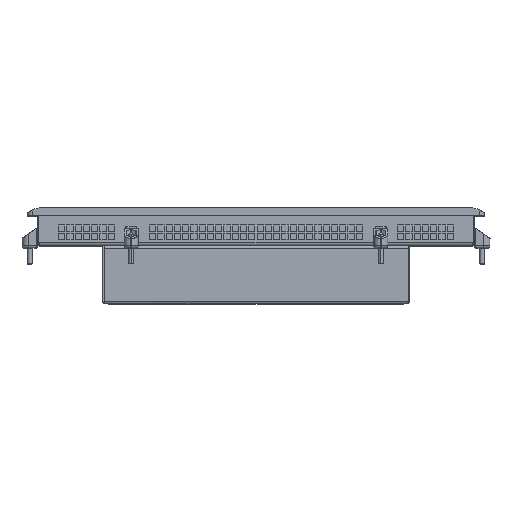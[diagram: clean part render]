
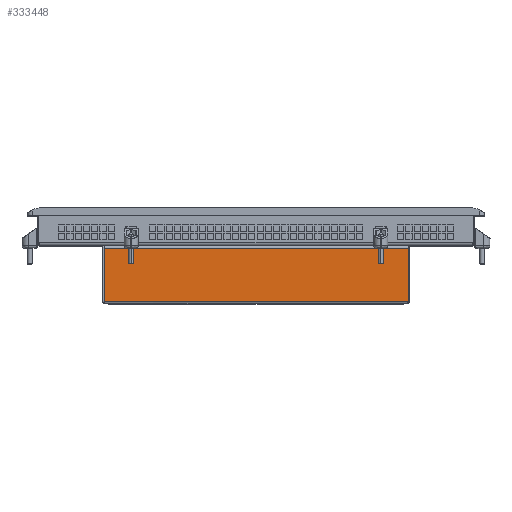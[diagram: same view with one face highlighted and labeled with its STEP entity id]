
A CAD part, top view. The second image highlights one B-rep face of the part: STEP entity #333448.
In plain terms, the highlighted planar face has unit normal (0, 0, 1) as drawn and (0, 1, 0) by its records, which use the part's own axes.
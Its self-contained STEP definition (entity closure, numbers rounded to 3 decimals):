
#16482 = DIRECTION ( 'NONE',  ( -1., 0., 0. ) ) ;
#21579 = LINE ( 'NONE', #60175, #326926 ) ;
#21847 = PLANE ( 'NONE',  #312228 ) ;
#40735 = DIRECTION ( 'NONE',  ( 0., 0., -1. ) ) ;
#56489 = VERTEX_POINT ( 'NONE', #200160 ) ;
#60175 = CARTESIAN_POINT ( 'NONE',  ( -2.38, 127.571, -9.2 ) ) ;
#66135 = ORIENTED_EDGE ( 'NONE', *, *, #91274, .T. ) ;
#73373 = CARTESIAN_POINT ( 'NONE',  ( 193.32, 127.571, 26.5 ) ) ;
#76812 = CARTESIAN_POINT ( 'NONE',  ( -2.38, 127.571, -7.6 ) ) ;
#83688 = VECTOR ( 'NONE', #16482, 1000. ) ;
#87521 = FACE_OUTER_BOUND ( 'NONE', #164369, .T. ) ;
#91274 = EDGE_CURVE ( 'NONE', #320772, #218176, #221977, .T. ) ;
#96224 = ORIENTED_EDGE ( 'NONE', *, *, #282093, .T. ) ;
#139373 = VECTOR ( 'NONE', #332542, 1000. ) ;
#145499 = CARTESIAN_POINT ( 'NONE',  ( -2.38, 127.571, 26.5 ) ) ;
#148676 = EDGE_CURVE ( 'NONE', #218176, #230807, #21579, .T. ) ;
#164369 = EDGE_LOOP ( 'NONE', ( #263248, #283693, #96224, #66135 ) ) ;
#200160 = CARTESIAN_POINT ( 'NONE',  ( 192.52, 127.571, 26.5 ) ) ;
#217068 = DIRECTION ( 'NONE',  ( 0., 0., 1. ) ) ;
#218176 = VERTEX_POINT ( 'NONE', #76812 ) ;
#221977 = LINE ( 'NONE', #303068, #83688 ) ;
#226577 = CARTESIAN_POINT ( 'NONE',  ( 193.32, 127.571, -9.2 ) ) ;
#227848 = EDGE_CURVE ( 'NONE', #230807, #56489, #233013, .T. ) ;
#230807 = VERTEX_POINT ( 'NONE', #145499 ) ;
#233013 = LINE ( 'NONE', #73373, #139373 ) ;
#251641 = DIRECTION ( 'NONE',  ( 0., 0., 1. ) ) ;
#263248 = ORIENTED_EDGE ( 'NONE', *, *, #148676, .T. ) ;
#275015 = CARTESIAN_POINT ( 'NONE',  ( 192.52, 127.571, -9.2 ) ) ;
#282093 = EDGE_CURVE ( 'NONE', #56489, #320772, #331875, .T. ) ;
#283693 = ORIENTED_EDGE ( 'NONE', *, *, #227848, .T. ) ;
#298293 = CARTESIAN_POINT ( 'NONE',  ( 192.52, 127.571, -7.6 ) ) ;
#303068 = CARTESIAN_POINT ( 'NONE',  ( 193.32, 127.571, -7.6 ) ) ;
#307241 = DIRECTION ( 'NONE',  ( 0., 1., 0. ) ) ;
#311771 = VECTOR ( 'NONE', #40735, 1000. ) ;
#312228 = AXIS2_PLACEMENT_3D ( 'NONE', #226577, #307241, #251641 ) ;
#320772 = VERTEX_POINT ( 'NONE', #298293 ) ;
#326926 = VECTOR ( 'NONE', #217068, 1000. ) ;
#331875 = LINE ( 'NONE', #275015, #311771 ) ;
#332542 = DIRECTION ( 'NONE',  ( 1., 0., 0. ) ) ;
#333448 = ADVANCED_FACE ( 'NONE', ( #87521 ), #21847, .T. ) ;
